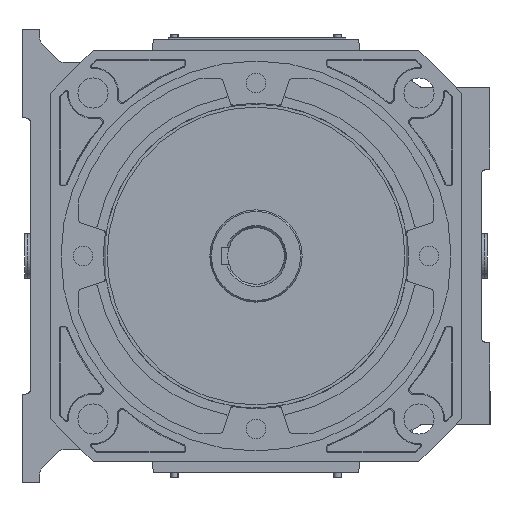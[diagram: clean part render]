
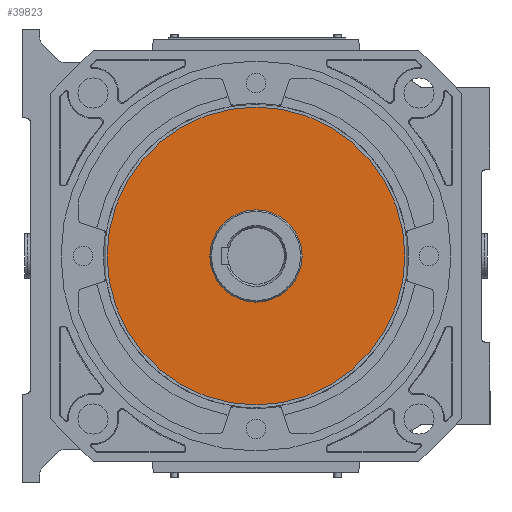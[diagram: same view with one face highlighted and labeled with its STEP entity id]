
A CAD part, left-side view. The second image highlights one B-rep face of the part: STEP entity #39823.
In plain terms, the highlighted planar face has unit normal (-1, 0, 0).
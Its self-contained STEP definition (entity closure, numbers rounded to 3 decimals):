
#1973=FACE_BOUND('',#6710,.T.);
#2204=CIRCLE('',#42149,84.);
#2205=CIRCLE('',#42151,26.);
#4449=FACE_OUTER_BOUND('',#6709,.T.);
#6709=EDGE_LOOP('',(#26374));
#6710=EDGE_LOOP('',(#26375));
#15961=VERTEX_POINT('',#59343);
#15962=VERTEX_POINT('',#59346);
#20103=EDGE_CURVE('',#15961,#15961,#2204,.T.);
#20104=EDGE_CURVE('',#15962,#15962,#2205,.T.);
#26374=ORIENTED_EDGE('',*,*,#20103,.T.);
#26375=ORIENTED_EDGE('',*,*,#20104,.F.);
#38861=PLANE('',#42150);
#39823=ADVANCED_FACE('',(#4449,#1973),#38861,.T.);
#42149=AXIS2_PLACEMENT_3D('',#59344,#46823,#46824);
#42150=AXIS2_PLACEMENT_3D('',#59345,#46825,#46826);
#42151=AXIS2_PLACEMENT_3D('',#59347,#46827,#46828);
#46823=DIRECTION('center_axis',(-1.,0.,0.));
#46824=DIRECTION('ref_axis',(0.,0.,1.));
#46825=DIRECTION('center_axis',(-1.,0.,0.));
#46826=DIRECTION('ref_axis',(0.,0.,1.));
#46827=DIRECTION('center_axis',(-1.,0.,0.));
#46828=DIRECTION('ref_axis',(0.,0.,1.));
#59343=CARTESIAN_POINT('',(-153.,6339.951,-3476.296));
#59344=CARTESIAN_POINT('Origin',(-153.,6255.951,-3476.296));
#59345=CARTESIAN_POINT('Origin',(-153.,6281.951,-3476.296));
#59346=CARTESIAN_POINT('',(-153.,6281.951,-3476.296));
#59347=CARTESIAN_POINT('Origin',(-153.,6255.951,-3476.296));
